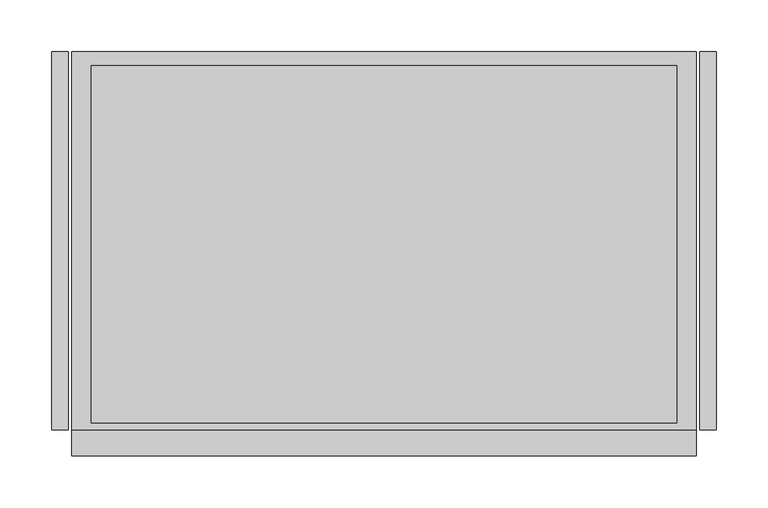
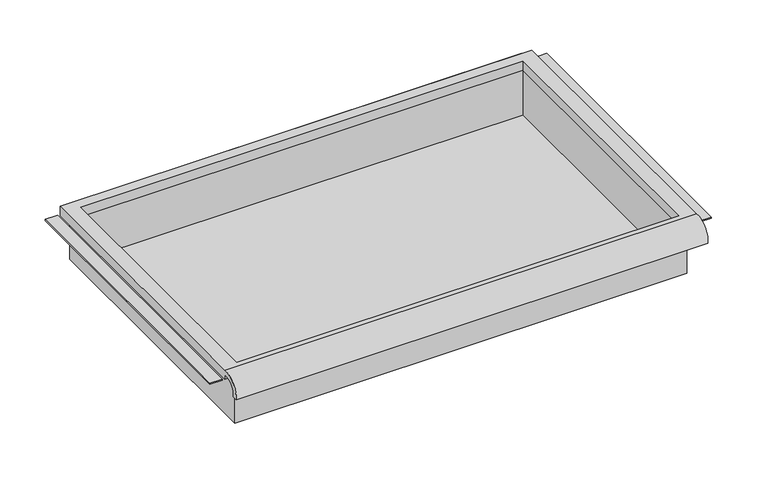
"""IFC4 building model written with IfcOpenShell, lengths in millimetres: furniture geometry."""

from ifc_helpers import new_model, si_unit, frame, origin, place, context, project, spatial, polyline, circle_curve, faceted_brep, source, transform, mapped, element, save
from ifc_brep_helpers import plane_surface, cylinder_surface, revolved_surface, advanced_brep


def furniture_9746303b(model_context):
    return source(origin(), model_context, "Body", "SolidModel", [
        advanced_brep(
        [(305.0224999, -195.297482, 967.5849529), (305.0224999, -188.9125, 967.5849529), (305.0224999, -169.8625, 985.8464261), (305.0224999, -169.8625, 979.4964246), (305.0224999, 195.2625, 979.4964246), (305.0224999, 195.2625, 992.1964261), (305.0224999, -169.8625, 992.1964261), (-298.2275001, -195.297482, 967.5849529), (-298.2275001, -169.8625, 992.1964261), (-298.2275001, 195.2625, 992.1964261), (-298.2275001, 195.2625, 979.4964246), (-298.2275001, -169.8625, 979.4964246), (-298.2275001, -169.8625, 985.8464261), (-298.2275001, -188.9125, 967.5849529), (285.9725003, 181.9275, 979.4964246), (-279.1775005, 181.9275, 979.4964246), (-279.1775005, -163.5125, 979.4964246), (285.9725003, -163.5125, 979.4964246), (-279.1775005, 181.9275, 992.1964261), (285.9725003, 181.9275, 992.1964261), (285.9725003, -163.5125, 992.1964261), (-279.1775005, -163.5125, 992.1964261)],
        [
            (0, 1),
            (1, 2, circle_curve(frame((305.0224999, -172.3404634, 969.3643633), z_axis=(-1.0, 0.0, 0.0), x_axis=(0.0, 1.0, 0.0)), 16.6672942)),
            (2, 3),
            (3, 4),
            (4, 5),
            (5, 6),
            (6, 0, circle_curve(frame((305.0224999, -172.4601678, 969.4322533), z_axis=(1.0, 0.0, 0.0), x_axis=(0.0, 1.0, 0.0)), 22.9119061)),
            (7, 8, circle_curve(frame((-298.2275001, -172.4601678, 969.4322533), z_axis=(-1.0, 0.0, 0.0), x_axis=(0.0, 1.0, 0.0)), 22.9119061)),
            (8, 9),
            (9, 10),
            (10, 11),
            (11, 12),
            (12, 13, circle_curve(frame((-298.2275001, -172.3404634, 969.3643633), z_axis=(1.0, 0.0, 0.0), x_axis=(0.0, 1.0, 0.0)), 16.6672942)),
            (13, 7),
            (0, 7),
            (13, 1),
            (12, 2),
            (11, 3),
            (10, 4),
            (14, 15),
            (15, 16),
            (16, 17),
            (17, 14),
            (9, 5),
            (8, 6),
            (18, 19),
            (19, 20),
            (20, 21),
            (21, 18),
            (14, 19),
            (18, 15),
            (21, 16),
            (20, 17),
        ],
        [
            plane_surface(frame((305.0224999, -195.297482, 967.5849529), z_axis=(1.0, 0.0, 0.0), x_axis=(0.0, 1.0, 0.0))),
            plane_surface(frame((-298.2275001, -195.297482, 967.5849529), z_axis=(-1.0, 0.0, 0.0), x_axis=(0.0, -1.0, 0.0))),
            plane_surface(frame((305.0224999, -195.297482, 967.5849529), z_axis=(0.0, 0.0, -1.0), x_axis=(-1.0, 0.0, 0.0))),
            revolved_surface(polyline([(-298.2275001, -155.67316920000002, 969.3643633), (305.0224999, -155.67316920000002, 969.3643633)]), (-298.2275001, -172.3404634, 969.3643633), (-1.0, 0.0, 0.0)),
            plane_surface(frame((305.0224999, -169.8625, 985.8464261), z_axis=(0.0, -1.0, 1.843857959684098e-12), x_axis=(-1.0, 0.0, 0.0))),
            plane_surface(frame((305.0224999, -169.8625, 979.4964246), z_axis=(0.0, 0.0, -1.0), x_axis=(-1.0, 0.0, 0.0))),
            plane_surface(frame((305.0224999, 195.2625, 979.4964246), z_axis=(0.0, 1.0, 0.0), x_axis=(-1.0, 0.0, 0.0))),
            plane_surface(frame((305.0224999, 195.2625, 992.1964261), z_axis=(0.0, 0.0, 1.0), x_axis=(-1.0, 0.0, 0.0))),
            cylinder_surface(frame((-298.2275001, -172.4601678, 969.4322533), z_axis=(1.0, 0.0, 0.0), x_axis=(0.0, 1.0, 0.0)), 22.9119061),
            plane_surface(frame((285.9725003, 181.9275, 992.1964261), z_axis=(0.0, -1.0, 0.0), x_axis=(0.0, 0.0, -1.0))),
            plane_surface(frame((-279.1775005, 181.9275, 992.1964261), z_axis=(1.0, 0.0, 0.0), x_axis=(0.0, 0.0, -1.0))),
            plane_surface(frame((-279.1775005, -163.5125, 992.1964261), z_axis=(0.0, 1.0, 0.0), x_axis=(0.0, 0.0, -1.0))),
            plane_surface(frame((285.9725003, -163.5125, 992.1964261), z_axis=(-1.0, 0.0, 0.0), x_axis=(0.0, 0.0, -1.0))),
        ],
        [
            (0, [[1, 2, 3, 4, 5, 6, 7]]),
            (1, [[8, 9, 10, 11, 12, 13, 14]]),
            (2, [[-1, 15, -14, 16]]),
            (3, [[-2, -16, -13, 17]]),
            (4, [[-3, -17, -12, 18]]),
            (5, [[-4, -18, -11, 19], [20, 21, 22, 23]]),
            (6, [[-5, -19, -10, 24]]),
            (7, [[-6, -24, -9, 25], [26, 27, 28, 29]]),
            (8, [[-7, -25, -8, -15]]),
            (9, [[30, -26, 31, -20]]),
            (10, [[-31, -29, 32, -21]]),
            (11, [[-32, -28, 33, -22]]),
            (12, [[-30, -23, -33, -27]]),
        ],
    ),
        faceted_brep([(-285.5275005, -169.8625, 915.9964261), (292.3225003, -169.8625, 915.9964261), (292.3225003, -169.8625, 992.1964261), (-285.5275005, -169.8625, 992.1964261), (-285.5275005, 195.2625, 915.9964261), (-285.5275005, 195.2625, 992.1964261), (292.3225003, 195.2625, 992.1964261), (292.3225003, 195.2625, 915.9964261), (-279.1775005, 181.9275, 992.1964261), (285.9725003, 181.9275, 992.1964261), (285.9725003, -163.5125, 992.1964261), (-279.1775005, -163.5125, 992.1964261), (285.9725003, 181.9275, 919.022598), (-279.1775005, 181.9275, 919.022598), (-279.1775005, -163.5125, 919.022598), (285.9725003, -163.5125, 919.022598)], [[[0, 1, 2, 3]], [[4, 5, 6, 7]], [[1, 0, 4, 7]], [[2, 1, 7, 6]], [[3, 2, 6, 5], [8, 9, 10, 11]], [[0, 3, 5, 4]], [[12, 13, 14, 15]], [[13, 12, 9, 8]], [[14, 13, 8, 11]], [[15, 14, 11, 10]], [[12, 15, 10, 9]]]),
        faceted_brep([(-317.2774997, 195.2625, 979.4964246), (-317.2774997, 195.2625, 981.0839246), (-301.4025001, 195.2625, 981.0839246), (-301.4025001, 195.2625, 979.4964246), (-317.2774997, -169.8625, 979.4964246), (-301.4025001, -169.8625, 979.4964246), (-301.4025001, -169.8625, 981.0839246), (-317.2774997, -169.8625, 981.0839246)], [[[0, 1, 2, 3]], [[4, 5, 6, 7]], [[1, 0, 4, 7]], [[2, 1, 7, 6]], [[3, 2, 6, 5]], [[0, 3, 5, 4]]]),
        faceted_brep([(324.0725245, 195.2625, 979.4964246), (308.1974999, 195.2625, 979.4964246), (308.1974999, 195.2625, 981.0839246), (324.0725245, 195.2625, 981.0839246), (324.0725245, -169.8625, 979.4964246), (324.0725245, -169.8625, 981.0839246), (308.1974999, -169.8625, 981.0839246), (308.1974999, -169.8625, 979.4964246)], [[[0, 1, 2, 3]], [[4, 5, 6, 7]], [[1, 0, 4, 7]], [[2, 1, 7, 6]], [[3, 2, 6, 5]], [[0, 3, 5, 4]]]),
    ])


if __name__ == "__main__":
    model = new_model("IFC4")
    model_context = context("Model", 3, world=origin())
    ifc_project = project(units=[si_unit("LENGTHUNIT", "METRE", prefix="MILLI")], contexts=[model_context])
    site = spatial("IfcSite", under=ifc_project)
    building = spatial("IfcBuilding", under=site)
    placement = place(None, origin())
    furniture_shape = furniture_9746303b(model_context)
    element("IfcFurniture", 1, ObjectType="HermanMiller_Carts_CT511_Drawer : 3\"H x 15\"D x 24\"W", at=placement, inside=building, context=model_context, shape_type="MappedRepresentation", body=[
        mapped(furniture_shape, transform((0.0, 0.0, 0.0), x_axis=(1.0, 0.0, 0.0), y_axis=(0.0, 1.0, 0.0), z_axis=(0.0, 0.0, 1.0))),
    ])
    save(model, "model.ifc")
